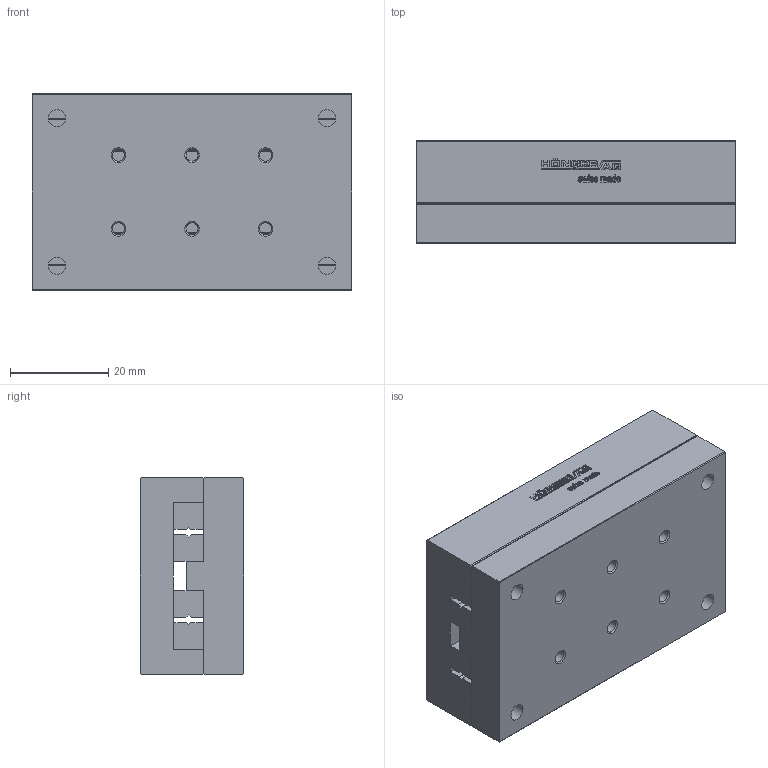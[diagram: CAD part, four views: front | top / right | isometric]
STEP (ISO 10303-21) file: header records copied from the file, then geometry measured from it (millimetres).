
FILE_DESCRIPTION(/* description */ ('STEP AP214'),/* implementation_level */ '2;1');
FILE_NAME(/* name */ 'NKL 2-65(0)',/* time_stamp */ '2025-04-23T07:57:58+02:00',/* author */ ('License CC BY-ND 4.0'),/* organization */ ('CADENAS'),/* preprocessor_version */ 'ST-DEVELOPER v19.3',/* originating_system */ 'PARTsolutions',/* authorisation */ ' ');
FILE_SCHEMA (('AUTOMOTIVE_DESIGN {1 0 10303 214 3 1 1}'));
Length unit declared in the file: millimetre
Products named in the file (3): NKL 2-65(0); NKL 2-65_1; NKL 2-65_2
Assembly tree (2 placements, depth 2):
  NKL 2-65(0)
    NKL 2-65_1
    NKL 2-65_2
Bounding box: 65 x 21 x 40 mm (x, y, z)
Volume: 51336.1 mm3; surface area: 20359.7 mm2
Topology: 2 solids, 2 shells, 627 faces, 1746 edges, 1148 vertices
Faces by surface type: cylinder 312, plane 291, cone 24
Full cylindrical faces by diameter (mm): 2.459 x12, 3.5 x4, 6 x4
Entity records: 20139 total; most frequent: DIRECTION 3610, CARTESIAN_POINT 3504, ORIENTED_EDGE 3392, EDGE_CURVE 1696, AXIS2_PLACEMENT_3D 1296, VERTEX_POINT 1142, LINE 1018, VECTOR 1018
